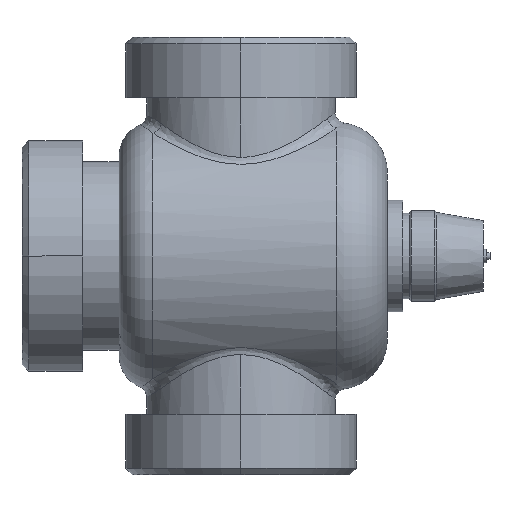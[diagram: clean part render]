
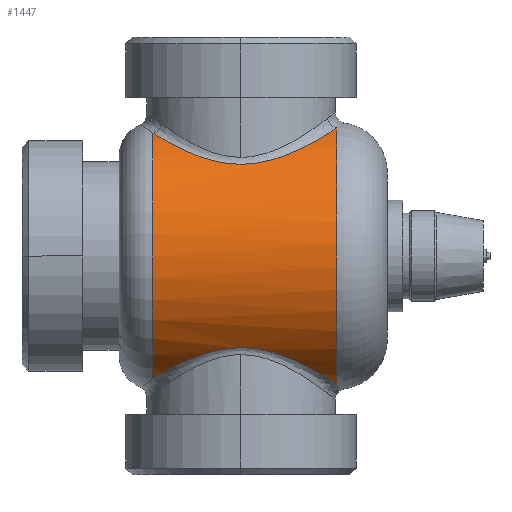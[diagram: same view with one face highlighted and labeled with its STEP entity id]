
A CAD part, left-side view. The second image highlights one B-rep face of the part: STEP entity #1447.
In plain terms, the highlighted cylindrical face has radius 39.666 mm (diameter 79.333 mm), a partial arc.
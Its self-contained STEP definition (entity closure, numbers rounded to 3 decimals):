
#717=CARTESIAN_POINT('',(-15.492,26.14,28.484));
#718=VERTEX_POINT('',#717);
#946=CARTESIAN_POINT('',(-11.309,-28.514,26.98));
#947=VERTEX_POINT('',#946);
#955=CARTESIAN_POINT('',(-15.492,26.14,28.484));
#956=CARTESIAN_POINT('',(-17.841,24.53,29.48));
#957=CARTESIAN_POINT('',(-19.945,22.569,30.646));
#958=CARTESIAN_POINT('',(-21.736,20.356,31.819));
#959=CARTESIAN_POINT('',(-24.603,16.814,33.697));
#960=CARTESIAN_POINT('',(-26.746,12.568,35.662));
#961=CARTESIAN_POINT('',(-27.9,7.77,36.805));
#962=CARTESIAN_POINT('',(-28.504,5.262,37.402));
#963=CARTESIAN_POINT('',(-28.825,2.606,37.75));
#964=CARTESIAN_POINT('',(-28.82,-0.056,37.745));
#965=CARTESIAN_POINT('',(-28.816,-2.718,37.741));
#966=CARTESIAN_POINT('',(-28.486,-5.37,37.383));
#967=CARTESIAN_POINT('',(-27.876,-7.869,36.781));
#968=CARTESIAN_POINT('',(-27.068,-11.182,35.982));
#969=CARTESIAN_POINT('',(-25.783,-14.232,34.784));
#970=CARTESIAN_POINT('',(-24.123,-16.963,33.512));
#971=CARTESIAN_POINT('',(-22.026,-20.412,31.906));
#972=CARTESIAN_POINT('',(-19.311,-23.392,30.171));
#973=CARTESIAN_POINT('',(-16.069,-25.734,28.734));
#974=CARTESIAN_POINT('',(-14.593,-26.801,28.08));
#975=CARTESIAN_POINT('',(-12.994,-27.741,27.481));
#976=CARTESIAN_POINT('',(-11.309,-28.514,26.98));
#977=B_SPLINE_CURVE_WITH_KNOTS('',3,(#955,#956,#957,#958,#959,#960,#961,#962,#963,#964,#965,#966,#967,#968,#969,#970,#971,#972,#973,#974,#975,#976),.UNSPECIFIED.,.F.,.U.,(4,3,3,3,3,3,3,4),(0.,9.545,24.818,32.798,40.779,51.356,64.714,70.798),.UNSPECIFIED.);
#978=EDGE_CURVE('',#947,#718,#977,.F.);
#1382=CARTESIAN_POINT('',(-11.309,-28.514,103.02));
#1383=VERTEX_POINT('',#1382);
#1399=CARTESIAN_POINT('',(0.0,-28.514,65.0));
#1400=DIRECTION('',(0.0,-1.0,0.0));
#1401=DIRECTION('',(0.0,0.0,-1.0));
#1402=AXIS2_PLACEMENT_3D('',#1399,#1400,#1401);
#1403=CIRCLE('',#1402,39.666);
#1404=EDGE_CURVE('',#1383,#947,#1403,.T.);
#1410=CARTESIAN_POINT('',(0.0,-7.604,65.0));
#1411=DIRECTION('',(0.0,-1.0,0.));
#1412=DIRECTION('',(0.0,0.0,-1.0));
#1413=AXIS2_PLACEMENT_3D('',#1410,#1411,#1412);
#1414=CYLINDRICAL_SURFACE('',#1413,39.666);
#1415=ORIENTED_EDGE('',*,*,#978,.F.);
#1416=ORIENTED_EDGE('',*,*,#1404,.F.);
#1417=CARTESIAN_POINT('',(-15.492,26.14,101.516));
#1418=VERTEX_POINT('',#1417);
#1419=CARTESIAN_POINT('',(-11.311,-28.511,103.017));
#1420=CARTESIAN_POINT('',(-12.965,-27.752,102.525));
#1421=CARTESIAN_POINT('',(-14.53,-26.837,101.943));
#1422=CARTESIAN_POINT('',(-19.432,-23.324,99.785));
#1423=CARTESIAN_POINT('',(-22.295,-20.132,97.923));
#1424=CARTESIAN_POINT('',(-26.81,-12.338,94.386));
#1425=CARTESIAN_POINT('',(-28.364,-7.518,92.734));
#1426=CARTESIAN_POINT('',(-28.943,0.497,92.126));
#1427=CARTESIAN_POINT('',(-28.763,3.459,92.326));
#1428=CARTESIAN_POINT('',(-27.692,9.052,93.411));
#1429=CARTESIAN_POINT('',(-26.813,11.691,94.271));
#1430=CARTESIAN_POINT('',(-24.191,17.201,96.494));
#1431=CARTESIAN_POINT('',(-22.298,19.937,97.913));
#1432=CARTESIAN_POINT('',(-18.635,23.737,100.053));
#1433=CARTESIAN_POINT('',(-17.122,25.023,100.824));
#1434=CARTESIAN_POINT('',(-15.492,26.14,101.516));
#1435=B_SPLINE_CURVE_WITH_KNOTS('',3,(#1419,#1420,#1421,#1422,#1423,#1424,#1425,#1426,#1427,#1428,#1429,#1430,#1431,#1432,#1433,#1434),.UNSPECIFIED.,.F.,.U.,(4,2,2,2,2,2,2,4),(96.073,102.066,116.287,131.724,140.466,149.208,160.27,166.894),.UNSPECIFIED.);
#1436=EDGE_CURVE('',#1418,#1383,#1435,.F.);
#1437=ORIENTED_EDGE('',*,*,#1436,.F.);
#1438=CARTESIAN_POINT('',(0.0,26.14,65.0));
#1439=DIRECTION('',(0.0,1.0,0.0));
#1440=DIRECTION('',(0.0,0.0,1.0));
#1441=AXIS2_PLACEMENT_3D('',#1438,#1439,#1440);
#1442=CIRCLE('',#1441,39.666);
#1443=EDGE_CURVE('',#718,#1418,#1442,.T.);
#1444=ORIENTED_EDGE('',*,*,#1443,.F.);
#1445=EDGE_LOOP('',(#1415,#1416,#1437,#1444));
#1446=FACE_OUTER_BOUND('',#1445,.T.);
#1447=ADVANCED_FACE('',(#1446),#1414,.T.);
